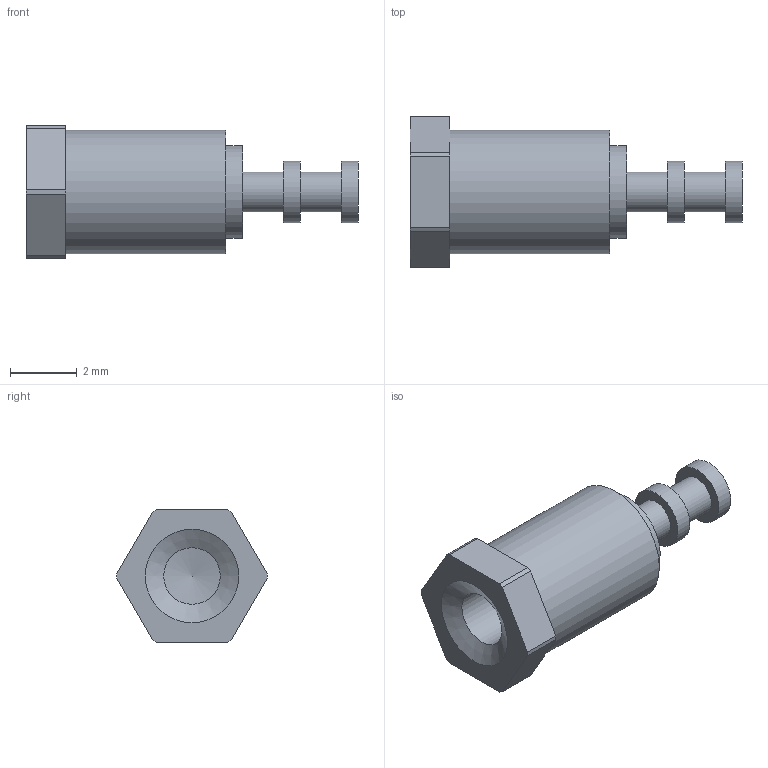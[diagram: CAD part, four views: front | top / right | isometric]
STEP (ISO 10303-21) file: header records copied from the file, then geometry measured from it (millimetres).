
FILE_DESCRIPTION(/* description */ (''),/* implementation_level */ '2;1');
FILE_NAME(/* name */ '\\Snap1\dwgs\Customer 3D Models\572\572-4884-01 Customer model.stp',/* time_stamp */ '2017-01-12T14:13:15+00:00',/* author */ ('paulk'),/* organization */ (''),/* preprocessor_version */ 'ST-DEVELOPER v15.2',/* originating_system */ 'Autodesk Inventor 2014',/* authorisation */ '');
FILE_SCHEMA (('CONFIG_CONTROL_DESIGN'));
Length unit declared in the file: millimetre
Products named in the file (1): 572-4884-01 Customer model
Bounding box: 9.93 x 4.5 x 3.96 mm (x, y, z)
Volume: 69 mm3; surface area: 138.8 mm2
Topology: 1 solids, 1 shells, 29 faces, 61 edges, 40 vertices
Faces by surface type: plane 14, cylinder 13, cone 2
Full cylindrical faces by diameter (mm): 1.194 x2, 1.694 x1, 1.829 x2, 2.769 x1, 3.708 x1
Entity records: 810 total; most frequent: DIRECTION 138, CARTESIAN_POINT 120, ORIENTED_EDGE 102, AXIS2_PLACEMENT_3D 57, EDGE_CURVE 51, EDGE_LOOP 44, VERTEX_POINT 39, STYLED_ITEM 30
